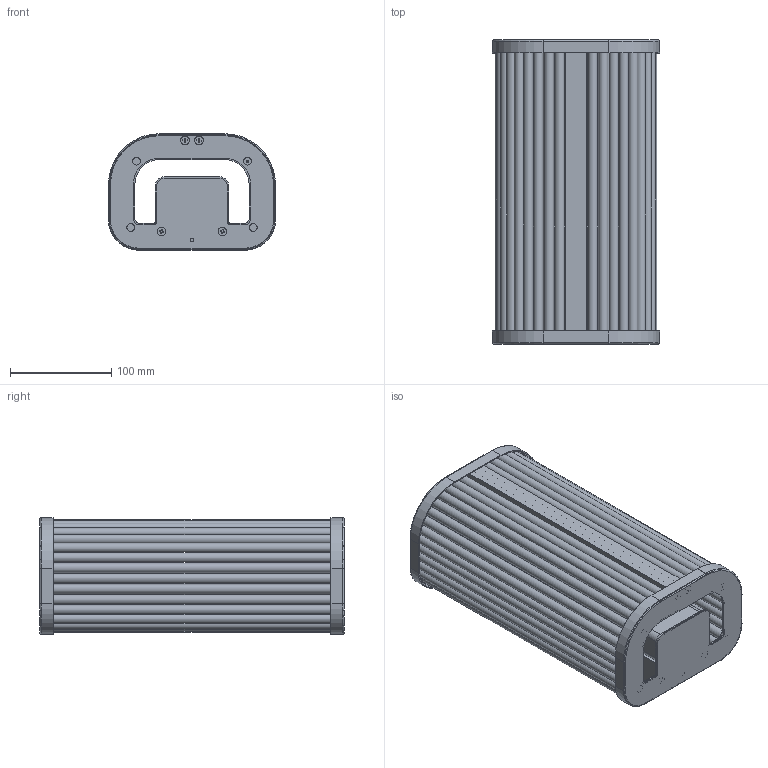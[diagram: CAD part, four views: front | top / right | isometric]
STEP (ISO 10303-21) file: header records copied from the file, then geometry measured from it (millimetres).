
FILE_DESCRIPTION (( 'STEP AP214' ), '1' );
FILE_NAME ('DIVA-A3990072.STEP', '2026-01-13T10:19:58', ( '' ), ( '' ), 'SwSTEP 2.0', 'SolidWorks 2025', '' );
FILE_SCHEMA (( 'AUTOMOTIVE_DESIGN' ));
Length unit declared in the file: millimetre
Products named in the file (11): Base_Estructura^3990_DIVA_00_DAVID; Perfil_Frontal^3990_DIVA_00_DAVID_3990_DIVA_300; Soporte Barras^3990_DIVA_00_DAVID; ISO 7047 - M2.5 x 6 - Z - 6N_ISO 7047 - M2.5 x 6 - Z - 6N; Difusor^3990_DIVA_00_DAVID_300; Chapa^3990_DIVA_00_DAVID_3990_DIVA_300; Barras de vidrio^3990_DIVA_00_DAVID_3990_DIVA_300; ISO 7046-1 - M4 x 10 - Z - 10N_ISO 7046-1 - M4 x 10 - Z - 10N; DIVA-A3990072; Embellecedor^3990_DIVA_00_DAVID; Perfil_Electronica^3990_DIVA_00_DAVID_300
Assembly tree (27 placements, depth 2):
  DIVA-A3990072
    Embellecedor^3990_DIVA_00_DAVID  x2
    Base_Estructura^3990_DIVA_00_DAVID  x2
    Perfil_Frontal^3990_DIVA_00_DAVID_3990_DIVA_300
    Perfil_Electronica^3990_DIVA_00_DAVID_300
    Difusor^3990_DIVA_00_DAVID_300
    Chapa^3990_DIVA_00_DAVID_3990_DIVA_300
    Soporte Barras^3990_DIVA_00_DAVID  x2
    Barras de vidrio^3990_DIVA_00_DAVID_3990_DIVA_300
    ISO 7046-1 - M4 x 10 - Z - 10N_ISO 7046-1 - M4 x 10 - Z - 10N  x8
    ISO 7047 - M2.5 x 6 - Z - 6N_ISO 7047 - M2.5 x 6 - Z - 6N  x8
Bounding box: 165 x 300.5 x 115 mm (x, y, z)
Volume: 1034082.9 mm3; surface area: 747627.2 mm2
Topology: 62 solids, 62 shells, 1240 faces, 2793 edges, 1754 vertices
Faces by surface type: plane 721, cylinder 321, cone 146, torus 44, sphere 8
Full cylindrical faces by diameter (mm): 2.5 x8, 2.75 x8, 3.5 x2, 4 x8, 4.6 x8, 4.7 x8, 8.4 x8, 9.35 x34, 9.75 x68, 16.3 x1
Entity records: 15678 total; most frequent: DIRECTION 2668, CARTESIAN_POINT 2636, ORIENTED_EDGE 2244, EDGE_CURVE 1122, AXIS2_PLACEMENT_3D 998, VERTEX_POINT 790, EDGE_LOOP 738, VECTOR 672
